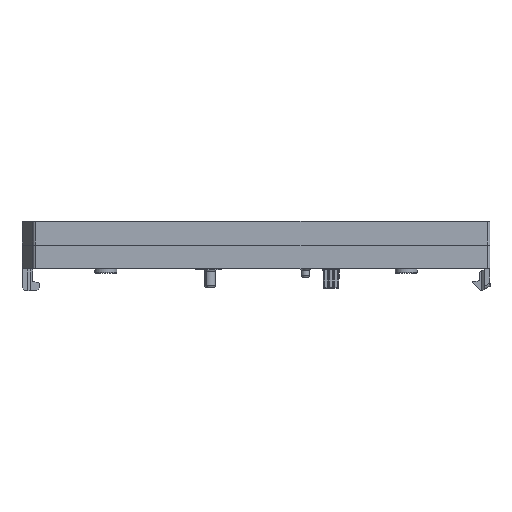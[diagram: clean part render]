
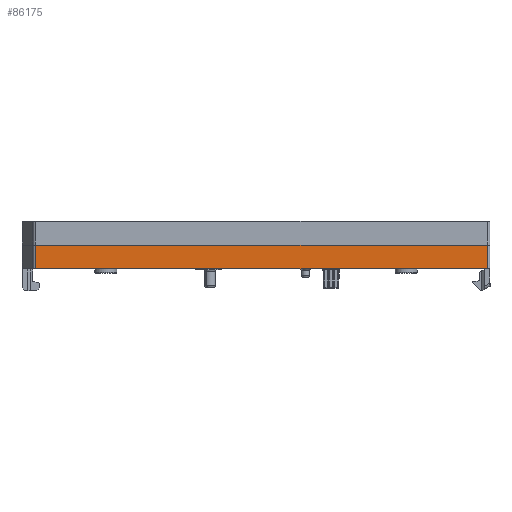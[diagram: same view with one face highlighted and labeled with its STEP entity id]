
A CAD part, front view. The second image highlights one B-rep face of the part: STEP entity #86175.
In plain terms, the highlighted planar face has unit normal (0, -1, 0).
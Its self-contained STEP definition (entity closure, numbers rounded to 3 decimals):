
#13167 = FACE_OUTER_BOUND ( 'NONE', #86178, .T. ) ;
#13290 = DIRECTION ( 'NONE',  ( 0., 0., 1. ) ) ;
#13292 = VECTOR ( 'NONE', #13290, 1000. ) ;
#13294 = CARTESIAN_POINT ( 'NONE',  ( 85.5, 0., -4.375 ) ) ;
#13297 = LINE ( 'NONE', #13294, #13292 ) ;
#13306 = DIRECTION ( 'NONE',  ( 1., 0., 0. ) ) ;
#13307 = DIRECTION ( 'NONE',  ( 0., -1., 0. ) ) ;
#13309 = CARTESIAN_POINT ( 'NONE',  ( 2.5, 0., -4.375 ) ) ;
#13311 = AXIS2_PLACEMENT_3D ( 'NONE', #13309, #13307, #13306 ) ;
#13315 = PLANE ( 'NONE',  #13311 ) ;
#13370 = DIRECTION ( 'NONE',  ( 0., 0., 1. ) ) ;
#13371 = VECTOR ( 'NONE', #13370, 1000. ) ;
#13374 = CARTESIAN_POINT ( 'NONE',  ( 2.5, 0., -4.375 ) ) ;
#13377 = LINE ( 'NONE', #13374, #13371 ) ;
#43920 = VERTEX_POINT ( 'NONE', #109954 ) ;
#43983 = VERTEX_POINT ( 'NONE', #110127 ) ;
#44014 = EDGE_CURVE ( 'NONE', #43920, #43983, #110289, .T. ) ;
#86169 = ORIENTED_EDGE ( 'NONE', *, *, #86181, .T. ) ;
#86175 = ADVANCED_FACE ( 'NONE', ( #13167 ), #13315, .T. ) ;
#86178 = EDGE_LOOP ( 'NONE', ( #86193, #86191, #86186, #86169 ) ) ;
#86181 = EDGE_CURVE ( 'NONE', #43983, #131438, #13297, .T. ) ;
#86186 = ORIENTED_EDGE ( 'NONE', *, *, #44014, .T. ) ;
#86191 = ORIENTED_EDGE ( 'NONE', *, *, #86192, .F. ) ;
#86192 = EDGE_CURVE ( 'NONE', #43920, #131420, #13377, .T. ) ;
#86193 = ORIENTED_EDGE ( 'NONE', *, *, #131433, .F. ) ;
#109954 = CARTESIAN_POINT ( 'NONE',  ( 2.5, 0., -4.375 ) ) ;
#110127 = CARTESIAN_POINT ( 'NONE',  ( 85.5, 0., -4.375 ) ) ;
#110285 = DIRECTION ( 'NONE',  ( 1., 0., 0. ) ) ;
#110286 = VECTOR ( 'NONE', #110285, 1000. ) ;
#110288 = CARTESIAN_POINT ( 'NONE',  ( 2.5, 0., -4.375 ) ) ;
#110289 = LINE ( 'NONE', #110288, #110286 ) ;
#128696 = LINE ( 'NONE', #128882, #128880 ) ;
#128754 = CARTESIAN_POINT ( 'NONE',  ( 2.5, 0., 0. ) ) ;
#128877 = CARTESIAN_POINT ( 'NONE',  ( 85.5, 0., 0. ) ) ;
#128879 = DIRECTION ( 'NONE',  ( 1., 0., 0. ) ) ;
#128880 = VECTOR ( 'NONE', #128879, 1000. ) ;
#128882 = CARTESIAN_POINT ( 'NONE',  ( 2.5, 0., 0. ) ) ;
#131420 = VERTEX_POINT ( 'NONE', #128754 ) ;
#131433 = EDGE_CURVE ( 'NONE', #131420, #131438, #128696, .T. ) ;
#131438 = VERTEX_POINT ( 'NONE', #128877 ) ;
